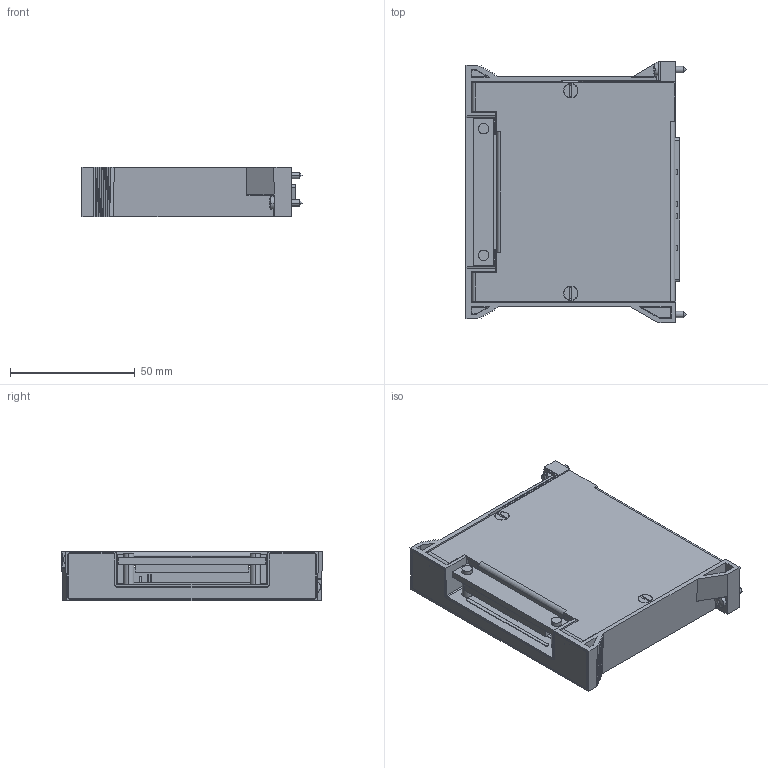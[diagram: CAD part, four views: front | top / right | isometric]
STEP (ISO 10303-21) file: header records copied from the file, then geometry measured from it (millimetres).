
FILE_DESCRIPTION((''),'2;1');
FILE_NAME('CU_TB-2632B','2011-01-21T',('jjorden'),(''),'PRO/ENGINEER BY PARAMETRIC TECHNOLOGY CORPORATION, 2010230','PRO/ENGINEER BY PARAMETRIC TECHNOLOGY CORPORATION, 2010230','');
FILE_SCHEMA(('CONFIG_CONTROL_DESIGN'));
Length unit declared in the file: inch
Products named in the file (1): CU_TB-2632B
Bounding box: 88.31 x 104.78 x 20.02 mm (x, y, z)
Volume: 43798.5 mm3; surface area: 53541.9 mm2
Topology: 1 solids, 1 shells, 1401 faces, 3723 edges, 2344 vertices
Faces by surface type: plane 994, cylinder 260, bspline 60, cone 54, sphere 25, torus 8
Entity records: 44674 total; most frequent: CARTESIAN_POINT 10019, ORIENTED_EDGE 7318, DIRECTION 6770, EDGE_CURVE 3659, VECTOR 2838, LINE 2838, VERTEX_POINT 2401, AXIS2_PLACEMENT_3D 1966
